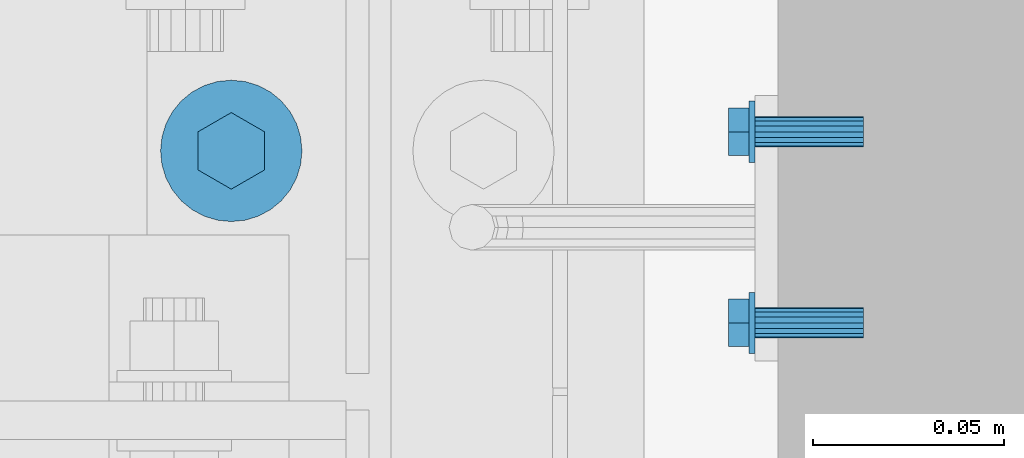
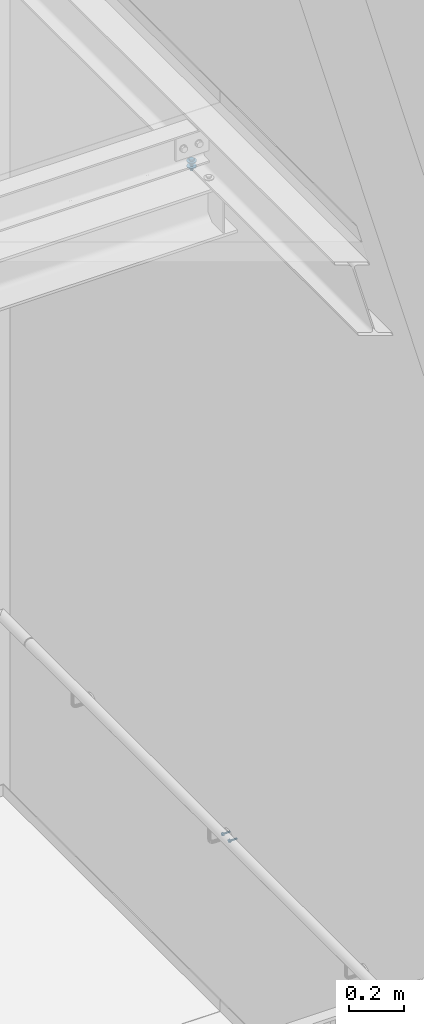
# One storey, part 318 of 410: 2 mechanical fasteners.
"""IFC2X3 building model written with IfcOpenShell, lengths in millimetres."""

import ifcopenshell
import ifcopenshell.guid

model = None  # the IFC model being written
_history = None  # IfcOwnerHistory: only IFC2X3 demands one
_inside = {}  # id of a spatial element -> (the spatial element, [elements in it])
_under = {}  # id of a project, library or spatial element -> (it, [spatial elements below it])
_declared = {}  # id of a project -> (the project, [libraries it declares])
_typed = {}  # id of a type object -> (the type object, [elements of that type])
_made_of = {}  # id of a material, layer set ... -> (it, [elements and type objects made of it])


def new_model(schema):
    """Start an empty IFC model of exactly this schema.

    Asked for "IFC4X3", IfcOpenShell would pick the latest addendum, in which some entities
    have other attributes; the version numbers below select the first issue.
    IFC2X3 requires an IfcOwnerHistory on every rooted entity: one is made here for all.
    """
    global model, _history
    if schema == "IFC4X3":
        model = ifcopenshell.file(schema_version=(4, 3, 0, 0))
    else:
        model = ifcopenshell.file(schema=schema)
    _inside.clear()
    _under.clear()
    _declared.clear()
    _typed.clear()
    _made_of.clear()
    _history = None
    if model.schema == "IFC2X3":
        org = make("IfcOrganization", Name="unknown")
        user = make(
            "IfcPersonAndOrganization",
            ThePerson=make("IfcPerson", FamilyName="unknown"),
            TheOrganization=org,
        )
        app = make(
            "IfcApplication",
            ApplicationDeveloper=org,
            Version="unknown",
            ApplicationFullName="unknown",
            ApplicationIdentifier="unknown",
        )
        _history = make(
            "IfcOwnerHistory",
            OwningUser=user,
            OwningApplication=app,
            ChangeAction="ADDED",
            CreationDate=0,
        )
    return model


def make(cls, **values):
    """One entity of the class cls with the attributes given. An attribute that is None is left unset."""
    return model.create_entity(
        cls, **{name: value for name, value in values.items() if value is not None}
    )


def entity(cls, *values):
    """Any entity or typed value of the class cls, its attributes in the order of the schema. None: left unset."""
    e = model.create_entity(cls)
    for i, value in enumerate(values):
        if value is not None:
            e[i] = value
    return e


def rooted(cls, **values):
    """An entity with a GlobalId (a new one), such as an element, a storey or a relation."""
    return make(cls, GlobalId=ifcopenshell.guid.new(), OwnerHistory=_history, **values)


def si_unit(unit_type, name, prefix=None):
    """IfcSIUnit, for example si_unit("LENGTHUNIT", "METRE", prefix="MILLI")."""
    return make("IfcSIUnit", UnitType=unit_type, Prefix=prefix, Name=name)


def converted_unit(unit_type, name, factor, base, dimensions=None, offset=None):
    """IfcConversionBasedUnit, such as the inch: factor (a typed value) times the base unit."""
    return make(
        "IfcConversionBasedUnit"
        if offset is None
        else "IfcConversionBasedUnitWithOffset",
        ConversionOffset=offset,
        Dimensions=None
        if dimensions is None
        else entity("IfcDimensionalExponents", *dimensions),
        UnitType=unit_type,
        Name=name,
        ConversionFactor=make(
            "IfcMeasureWithUnit", ValueComponent=factor, UnitComponent=base
        ),
    )


def assignment(units):
    """IfcUnitAssignment: the units of a project."""
    return None if units is None else make("IfcUnitAssignment", Units=units)


def point(xyz):
    """IfcCartesianPoint."""
    return None if xyz is None else make("IfcCartesianPoint", Coordinates=xyz)


def direction(xyz):
    """IfcDirection."""
    return None if xyz is None else make("IfcDirection", DirectionRatios=xyz)


def frame(location, z_axis=None, x_axis=None):
    """IfcAxis2Placement3D, a coordinate frame: its origin and axes. An axis left out is left unset."""
    return make(
        "IfcAxis2Placement3D",
        Location=point(location),
        Axis=direction(z_axis),
        RefDirection=direction(x_axis),
    )


def origin_with_axes():
    """The frame at (0, 0, 0) with the z axis (0, 0, 1) and the x axis (1, 0, 0) written out."""
    return frame((0.0, 0.0, 0.0), z_axis=(0.0, 0.0, 1.0), x_axis=(1.0, 0.0, 0.0))


def place(relative_to, where):
    """IfcLocalPlacement: puts the frame where relative to a parent placement (None: the world)."""
    return make(
        "IfcLocalPlacement", PlacementRelTo=relative_to, RelativePlacement=where
    )


def context(
    kind, dimensions, precision=None, world=None, true_north=None, identifier=None
):
    """IfcGeometricRepresentationContext, for example the 3D "Model" context."""
    return make(
        "IfcGeometricRepresentationContext",
        ContextIdentifier=identifier,
        ContextType=kind,
        CoordinateSpaceDimension=dimensions,
        Precision=precision,
        WorldCoordinateSystem=world,
        TrueNorth=true_north,
    )


def project(units=None, contexts=None):
    """IfcProject with its units and contexts."""
    return rooted(
        "IfcProject",
        Name="project",
        RepresentationContexts=contexts,
        UnitsInContext=assignment(units),
    )


def spatial(cls, under=None, at=None, **own):
    """A site, building, storey or space (cls), placed at a placement, below another one or the project."""
    s = rooted(cls, ObjectPlacement=at, **own)
    if under is not None:
        _under.setdefault(under.id(), (under, []))[1].append(s)
    return s


def faces_of(points, faces, orient=None, outer=None):
    """IfcFace entities. A face is a list of loops; a loop is a list of indices into points, from 0.

    orient and outer hold one flag for each loop. By default every Orientation is true, the
    first loop of a face is its IfcFaceOuterBound and the others are IfcFaceBound.
    """
    made = []
    for i, loops in enumerate(faces):
        bounds = []
        for j, loop in enumerate(loops):
            is_outer = j == 0 if outer is None else outer[i][j]
            bounds.append(
                make(
                    "IfcFaceOuterBound" if is_outer else "IfcFaceBound",
                    Bound=make("IfcPolyLoop", Polygon=[points[k] for k in loop]),
                    Orientation=True if orient is None else orient[i][j],
                )
            )
        made.append(make("IfcFace", Bounds=bounds))
    return made


def faceted_brep(points, faces, orient=None, outer=None, voids=None):
    """IfcFacetedBrep: a solid bounded by flat faces; with voids (closed shells), ...WithVoids."""
    shared = [point(p) for p in points]
    hull = make("IfcClosedShell", CfsFaces=faces_of(shared, faces, orient, outer))
    if voids is None:
        return make("IfcFacetedBrep", Outer=hull)
    return make(
        "IfcFacetedBrepWithVoids",
        Outer=hull,
        Voids=[
            make(cls, CfsFaces=faces_of(shared, fs, o, b)) for cls, fs, o, b in voids
        ],
    )


def shape(context_of_items, identifier, shape_type, items):
    """IfcShapeRepresentation: the items that make up one representation, for example the "Body"."""
    return make(
        "IfcShapeRepresentation",
        ContextOfItems=context_of_items,
        RepresentationIdentifier=identifier,
        RepresentationType=shape_type,
        Items=items,
    )


def made_of(thing, what):
    """Note that an element or type object is made of a material, layer set ...; save() writes the relation."""
    if what is not None:
        _made_of.setdefault(what.id(), (what, []))[1].append(thing)
    return thing


def element(
    cls,
    number,
    at=None,
    inside=None,
    cuts=None,
    type_object=None,
    material=None,
    context=None,
    identifier="Body",
    shape_type=None,
    held_by="IfcProductDefinitionShape",
    body=None,
    shapes=None,
    **own,
):
    """One element of the class cls, such as IfcWall. Its Tag is "e" and its number.

    at: its placement. inside: the storey or other place that contains it. cuts: it is an
    opening in that element (IfcRelVoidsElement). A single representation is given by context,
    identifier, shape_type and body (its items); several are given by shapes. held_by: the class
    of the entity that holds the representations. save() writes the other relations.
    """
    e = rooted(cls, Tag="e%d" % number, ObjectPlacement=at, **own)
    if body is not None:
        shapes = [shape(context, identifier, shape_type, body)]
    if shapes is not None:
        e.Representation = make(held_by, Representations=shapes)
    if inside is not None:
        _inside.setdefault(inside.id(), (inside, []))[1].append(e)
    if cuts is not None:
        rooted(
            "IfcRelVoidsElement", RelatingBuildingElement=cuts, RelatedOpeningElement=e
        )
    if type_object is not None:
        _typed.setdefault(type_object.id(), (type_object, []))[1].append(e)
    return made_of(e, material)


def aggregate(whole, parts):
    """IfcRelAggregates: a whole, such as a stair, and the parts it consists of."""
    return rooted("IfcRelAggregates", RelatingObject=whole, RelatedObjects=parts)


def save(model, path):
    """Write the relations noted so far, then the file.

    IfcRelAggregates (storeys below a building ...), IfcRelContainedInSpatialStructure (elements
    in a storey), IfcRelDefinesByType, IfcRelAssociatesMaterial and IfcRelDeclares: one each for
    every whole, place, type object, material and project.
    """
    for whole, parts in _under.values():
        aggregate(whole, parts)
    for where, things in _inside.values():
        rooted(
            "IfcRelContainedInSpatialStructure",
            RelatedElements=things,
            RelatingStructure=where,
        )
    for kind, things in _typed.values():
        rooted("IfcRelDefinesByType", RelatedObjects=things, RelatingType=kind)
    for what, things in _made_of.values():
        rooted("IfcRelAssociatesMaterial", RelatedObjects=things, RelatingMaterial=what)
    for by, libraries in _declared.values():
        rooted("IfcRelDeclares", RelatingContext=by, RelatedDefinitions=libraries)
    model.write(path)


model = new_model("IFC2X3")

# Units and contexts
model_context = context("Model", 3, precision=1e-09, world=origin_with_axes())
ifc_project = project(units=[si_unit("LENGTHUNIT", "METRE", prefix="MILLI"), si_unit("AREAUNIT", "SQUARE_METRE"), si_unit("VOLUMEUNIT", "CUBIC_METRE"), converted_unit("PLANEANGLEUNIT", "DEGREE", entity("IfcPlaneAngleMeasure", 0.01745329), si_unit("PLANEANGLEUNIT", "RADIAN"), dimensions=[0, 0, 0, 0, 0, 0, 0])], contexts=[model_context])

# Site, building, storey
site_placement = place(None, origin_with_axes())
site = spatial("IfcSite", under=ifc_project, at=site_placement, Name="mKR Teilneubau & Sanierung BA1 - Ostfildern", CompositionType="ELEMENT")
building_placement = place(site_placement, origin_with_axes())
building = spatial("IfcBuilding", under=site, at=building_placement, Name="Struktur 1", CompositionType="ELEMENT")
storey_placement = place(building_placement, origin_with_axes())
storey = spatial("IfcBuildingStorey", under=building, at=storey_placement, Name="Default Storey", CompositionType="ELEMENT", Elevation=0.0)

# Mechanical fasteners
mechanical_fastener_1_placement = place(None, origin_with_axes())
element("IfcMechanicalFastener", 1, at=mechanical_fastener_1_placement, inside=storey, ObjectType="Bolt", NominalDiameter=12.0, NominalLength=45.0, context=model_context, shape_type="Brep", body=[
    faceted_brep([(3165.501468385, 17043.0, 1642.2434785), (3165.501468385, 17043.0, 1645.2434785), (3165.145996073, 17039.390829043, 1645.2434785), (3165.145996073, 17039.390829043, 1642.2434785), (3164.093239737, 17035.920356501, 1645.2434785), (3164.093239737, 17035.920356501, 1642.2434785), (3162.383656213, 17032.721950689, 1645.2434785), (3162.383656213, 17032.721950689, 1642.2434785), (3160.082943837, 17029.918524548, 1645.2434785), (3160.082943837, 17029.918524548, 1642.2434785), (3157.279517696, 17027.617812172, 1645.2434785), (3157.279517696, 17027.617812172, 1642.2434785), (3154.081111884, 17025.908228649, 1645.2434785), (3154.081111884, 17025.908228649, 1642.2434785), (3150.610639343, 17024.855472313, 1645.2434785), (3150.610639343, 17024.855472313, 1642.2434785), (3147.001468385, 17024.5, 1645.2434785), (3147.001468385, 17024.5, 1642.2434785), (3143.392297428, 17024.855472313, 1645.2434785), (3143.392297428, 17024.855472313, 1642.2434785), (3139.921824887, 17025.908228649, 1645.2434785), (3139.921824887, 17025.908228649, 1642.2434785), (3136.723419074, 17027.617812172, 1645.2434785), (3136.723419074, 17027.617812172, 1642.2434785), (3133.919992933, 17029.918524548, 1645.2434785), (3133.919992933, 17029.918524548, 1642.2434785), (3131.619280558, 17032.721950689, 1645.2434785), (3131.619280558, 17032.721950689, 1642.2434785), (3129.909697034, 17035.920356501, 1645.2434785), (3129.909697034, 17035.920356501, 1642.2434785), (3128.856940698, 17039.390829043, 1645.2434785), (3128.856940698, 17039.390829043, 1642.2434785), (3128.501468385, 17043.0, 1645.2434785), (3128.501468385, 17043.0, 1642.2434785), (3128.856940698, 17046.609170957, 1645.2434785), (3128.856940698, 17046.609170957, 1642.2434785), (3129.909697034, 17050.079643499, 1645.2434785), (3129.909697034, 17050.079643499, 1642.2434785), (3131.619280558, 17053.278049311, 1645.2434785), (3131.619280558, 17053.278049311, 1642.2434785), (3133.919992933, 17056.081475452, 1645.2434785), (3133.919992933, 17056.081475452, 1642.2434785), (3136.723419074, 17058.382187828, 1645.2434785), (3136.723419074, 17058.382187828, 1642.2434785), (3139.921824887, 17060.091771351, 1645.2434785), (3139.921824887, 17060.091771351, 1642.2434785), (3143.392297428, 17061.144527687, 1645.2434785), (3143.392297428, 17061.144527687, 1642.2434785), (3147.001468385, 17061.5, 1645.2434785), (3147.001468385, 17061.5, 1642.2434785), (3150.610639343, 17061.144527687, 1645.2434785), (3150.610639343, 17061.144527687, 1642.2434785), (3154.081111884, 17060.091771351, 1645.2434785), (3154.081111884, 17060.091771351, 1642.2434785), (3157.279517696, 17058.382187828, 1645.2434785), (3157.279517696, 17058.382187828, 1642.2434785), (3160.082943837, 17056.081475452, 1645.2434785), (3160.082943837, 17056.081475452, 1642.2434785), (3162.383656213, 17053.278049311, 1645.2434785), (3162.383656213, 17053.278049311, 1642.2434785), (3164.093239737, 17050.079643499, 1645.2434785), (3164.093239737, 17050.079643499, 1642.2434785), (3165.145996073, 17046.609170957, 1645.2434785), (3165.145996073, 17046.609170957, 1642.2434785)], [[[0, 1, 2, 3]], [[3, 2, 4, 5]], [[5, 4, 6, 7]], [[7, 6, 8, 9]], [[9, 8, 10, 11]], [[11, 10, 12, 13]], [[13, 12, 14, 15]], [[15, 14, 16, 17]], [[17, 16, 18, 19]], [[19, 18, 20, 21]], [[21, 20, 22, 23]], [[23, 22, 24, 25]], [[25, 24, 26, 27]], [[27, 26, 28, 29]], [[29, 28, 30, 31]], [[31, 30, 32, 33]], [[33, 32, 34, 35]], [[35, 34, 36, 37]], [[37, 36, 38, 39]], [[39, 38, 40, 41]], [[41, 40, 42, 43]], [[43, 42, 44, 45]], [[45, 44, 46, 47]], [[47, 46, 48, 49]], [[49, 48, 50, 51]], [[51, 50, 52, 53]], [[53, 52, 54, 55]], [[55, 54, 56, 57]], [[57, 56, 58, 59]], [[59, 58, 60, 61]], [[61, 60, 62, 63]], [[63, 62, 1, 0]], [[2, 1, 62, 60, 58, 56, 54, 52, 50, 48, 46, 44, 42, 40, 38, 36, 34, 32, 30, 28, 26, 24, 22, 20, 18, 16, 14, 12, 10, 8, 6, 4]], [[63, 0, 3, 5, 7, 9, 11, 13, 15, 17, 19, 21, 23, 25, 27, 29, 31, 33, 35, 37, 39, 41, 43, 45, 47, 49, 51, 53, 55, 57, 59, 61]]]),
    faceted_brep([(3138.328223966, 17037.9925, 1652.7434785), (3138.328223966, 17037.9925, 1645.2434785), (3147.001468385, 17032.985, 1645.2434785), (3147.001468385, 17032.985, 1652.7434785), (3155.674712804, 17037.9925, 1645.2434785), (3155.674712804, 17037.9925, 1652.7434785), (3155.674712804, 17048.0075, 1645.2434785), (3155.674712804, 17048.0075, 1652.7434785), (3147.001468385, 17053.015, 1645.2434785), (3147.001468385, 17053.015, 1652.7434785), (3138.328223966, 17048.0075, 1645.2434785), (3138.328223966, 17048.0075, 1652.7434785)], [[[0, 1, 2, 3]], [[3, 2, 4, 5]], [[5, 4, 6, 7]], [[7, 6, 8, 9]], [[9, 8, 10, 11]], [[11, 10, 1, 0]], [[3, 5, 7, 9, 11, 0]], [[2, 1, 10, 8, 6, 4]]]),
    faceted_brep([(3153.001468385, 17043.0, 1621.0434785), (3153.001468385, 17043.0, 1642.2434785), (3152.54474558, 17040.703899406, 1642.2434785), (3152.54474558, 17040.703899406, 1621.0434785), (3151.244109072, 17038.757359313, 1642.2434785), (3151.244109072, 17038.757359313, 1621.0434785), (3149.29756898, 17037.456722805, 1642.2434785), (3149.29756898, 17037.456722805, 1621.0434785), (3147.001468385, 17037.0, 1642.2434785), (3147.001468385, 17037.0, 1621.0434785), (3144.705367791, 17037.456722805, 1642.2434785), (3144.705367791, 17037.456722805, 1621.0434785), (3142.758827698, 17038.757359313, 1642.2434785), (3142.758827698, 17038.757359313, 1621.0434785), (3141.45819119, 17040.703899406, 1642.2434785), (3141.45819119, 17040.703899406, 1621.0434785), (3141.001468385, 17043.0, 1642.2434785), (3141.001468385, 17043.0, 1621.0434785), (3141.45819119, 17045.296100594, 1642.2434785), (3141.45819119, 17045.296100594, 1621.0434785), (3142.758827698, 17047.242640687, 1642.2434785), (3142.758827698, 17047.242640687, 1621.0434785), (3144.705367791, 17048.543277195, 1642.2434785), (3144.705367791, 17048.543277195, 1621.0434785), (3147.001468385, 17049.0, 1642.2434785), (3147.001468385, 17049.0, 1621.0434785), (3149.29756898, 17048.543277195, 1642.2434785), (3149.29756898, 17048.543277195, 1621.0434785), (3151.244109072, 17047.242640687, 1642.2434785), (3151.244109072, 17047.242640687, 1621.0434785), (3152.54474558, 17045.296100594, 1642.2434785), (3152.54474558, 17045.296100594, 1621.0434785)], [[[0, 1, 2, 3]], [[3, 2, 4, 5]], [[5, 4, 6, 7]], [[7, 6, 8, 9]], [[9, 8, 10, 11]], [[11, 10, 12, 13]], [[13, 12, 14, 15]], [[15, 14, 16, 17]], [[17, 16, 18, 19]], [[19, 18, 20, 21]], [[21, 20, 22, 23]], [[23, 22, 24, 25]], [[25, 24, 26, 27]], [[27, 26, 28, 29]], [[29, 28, 30, 31]], [[31, 30, 1, 0]], [[2, 1, 30, 28, 26, 24, 22, 20, 18, 16, 14, 12, 10, 8, 6, 4]], [[31, 0, 3, 5, 7, 9, 11, 13, 15, 17, 19, 21, 23, 25, 27, 29]]]),
    faceted_brep([(3165.501468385, 17043.0, 1618.0434785), (3165.501468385, 17043.0, 1621.0434785), (3165.145996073, 17039.390829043, 1621.0434785), (3165.145996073, 17039.390829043, 1618.0434785), (3164.093239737, 17035.920356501, 1621.0434785), (3164.093239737, 17035.920356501, 1618.0434785), (3162.383656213, 17032.721950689, 1621.0434785), (3162.383656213, 17032.721950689, 1618.0434785), (3160.082943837, 17029.918524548, 1621.0434785), (3160.082943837, 17029.918524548, 1618.0434785), (3157.279517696, 17027.617812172, 1621.0434785), (3157.279517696, 17027.617812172, 1618.0434785), (3154.081111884, 17025.908228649, 1621.0434785), (3154.081111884, 17025.908228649, 1618.0434785), (3150.610639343, 17024.855472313, 1621.0434785), (3150.610639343, 17024.855472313, 1618.0434785), (3147.001468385, 17024.5, 1621.0434785), (3147.001468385, 17024.5, 1618.0434785), (3143.392297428, 17024.855472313, 1621.0434785), (3143.392297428, 17024.855472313, 1618.0434785), (3139.921824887, 17025.908228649, 1621.0434785), (3139.921824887, 17025.908228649, 1618.0434785), (3136.723419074, 17027.617812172, 1621.0434785), (3136.723419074, 17027.617812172, 1618.0434785), (3133.919992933, 17029.918524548, 1621.0434785), (3133.919992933, 17029.918524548, 1618.0434785), (3131.619280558, 17032.721950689, 1621.0434785), (3131.619280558, 17032.721950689, 1618.0434785), (3129.909697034, 17035.920356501, 1621.0434785), (3129.909697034, 17035.920356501, 1618.0434785), (3128.856940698, 17039.390829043, 1621.0434785), (3128.856940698, 17039.390829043, 1618.0434785), (3128.501468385, 17043.0, 1621.0434785), (3128.501468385, 17043.0, 1618.0434785), (3128.856940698, 17046.609170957, 1621.0434785), (3128.856940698, 17046.609170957, 1618.0434785), (3129.909697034, 17050.079643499, 1621.0434785), (3129.909697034, 17050.079643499, 1618.0434785), (3131.619280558, 17053.278049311, 1621.0434785), (3131.619280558, 17053.278049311, 1618.0434785), (3133.919992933, 17056.081475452, 1621.0434785), (3133.919992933, 17056.081475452, 1618.0434785), (3136.723419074, 17058.382187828, 1621.0434785), (3136.723419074, 17058.382187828, 1618.0434785), (3139.921824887, 17060.091771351, 1621.0434785), (3139.921824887, 17060.091771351, 1618.0434785), (3143.392297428, 17061.144527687, 1621.0434785), (3143.392297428, 17061.144527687, 1618.0434785), (3147.001468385, 17061.5, 1621.0434785), (3147.001468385, 17061.5, 1618.0434785), (3150.610639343, 17061.144527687, 1621.0434785), (3150.610639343, 17061.144527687, 1618.0434785), (3154.081111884, 17060.091771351, 1621.0434785), (3154.081111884, 17060.091771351, 1618.0434785), (3157.279517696, 17058.382187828, 1621.0434785), (3157.279517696, 17058.382187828, 1618.0434785), (3160.082943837, 17056.081475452, 1621.0434785), (3160.082943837, 17056.081475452, 1618.0434785), (3162.383656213, 17053.278049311, 1621.0434785), (3162.383656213, 17053.278049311, 1618.0434785), (3164.093239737, 17050.079643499, 1621.0434785), (3164.093239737, 17050.079643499, 1618.0434785), (3165.145996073, 17046.609170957, 1621.0434785), (3165.145996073, 17046.609170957, 1618.0434785)], [[[0, 1, 2, 3]], [[3, 2, 4, 5]], [[5, 4, 6, 7]], [[7, 6, 8, 9]], [[9, 8, 10, 11]], [[11, 10, 12, 13]], [[13, 12, 14, 15]], [[15, 14, 16, 17]], [[17, 16, 18, 19]], [[19, 18, 20, 21]], [[21, 20, 22, 23]], [[23, 22, 24, 25]], [[25, 24, 26, 27]], [[27, 26, 28, 29]], [[29, 28, 30, 31]], [[31, 30, 32, 33]], [[33, 32, 34, 35]], [[35, 34, 36, 37]], [[37, 36, 38, 39]], [[39, 38, 40, 41]], [[41, 40, 42, 43]], [[43, 42, 44, 45]], [[45, 44, 46, 47]], [[47, 46, 48, 49]], [[49, 48, 50, 51]], [[51, 50, 52, 53]], [[53, 52, 54, 55]], [[55, 54, 56, 57]], [[57, 56, 58, 59]], [[59, 58, 60, 61]], [[61, 60, 62, 63]], [[63, 62, 1, 0]], [[2, 1, 62, 60, 58, 56, 54, 52, 50, 48, 46, 44, 42, 40, 38, 36, 34, 32, 30, 28, 26, 24, 22, 20, 18, 16, 14, 12, 10, 8, 6, 4]], [[63, 0, 3, 5, 7, 9, 11, 13, 15, 17, 19, 21, 23, 25, 27, 29, 31, 33, 35, 37, 39, 41, 43, 45, 47, 49, 51, 53, 55, 57, 59, 61]]]),
    faceted_brep([(3137.864900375, 17037.725, 1618.0434785), (3137.864900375, 17037.725, 1608.0434785), (3147.001468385, 17032.45, 1608.0434785), (3147.001468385, 17032.45, 1618.0434785), (3156.138036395, 17037.725, 1608.0434785), (3156.138036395, 17037.725, 1618.0434785), (3156.138036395, 17048.275, 1608.0434785), (3156.138036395, 17048.275, 1618.0434785), (3147.001468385, 17053.55, 1608.0434785), (3147.001468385, 17053.55, 1618.0434785), (3137.864900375, 17048.275, 1608.0434785), (3137.864900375, 17048.275, 1618.0434785)], [[[0, 1, 2, 3]], [[3, 2, 4, 5]], [[5, 4, 6, 7]], [[7, 6, 8, 9]], [[9, 8, 10, 11]], [[11, 10, 1, 0]], [[3, 5, 7, 9, 11, 0]], [[2, 1, 10, 8, 6, 4]]]),
    faceted_brep([(3153.001468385, 17043.0, 1600.2434785), (3153.001468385, 17043.0, 1608.0434785), (3152.54474558, 17040.703899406, 1608.0434785), (3152.54474558, 17040.703899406, 1600.2434785), (3151.244109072, 17038.757359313, 1608.0434785), (3151.244109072, 17038.757359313, 1600.2434785), (3149.29756898, 17037.456722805, 1608.0434785), (3149.29756898, 17037.456722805, 1600.2434785), (3147.001468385, 17037.0, 1608.0434785), (3147.001468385, 17037.0, 1600.2434785), (3144.705367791, 17037.456722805, 1608.0434785), (3144.705367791, 17037.456722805, 1600.2434785), (3142.758827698, 17038.757359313, 1608.0434785), (3142.758827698, 17038.757359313, 1600.2434785), (3141.45819119, 17040.703899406, 1608.0434785), (3141.45819119, 17040.703899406, 1600.2434785), (3141.001468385, 17043.0, 1608.0434785), (3141.001468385, 17043.0, 1600.2434785), (3141.45819119, 17045.296100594, 1608.0434785), (3141.45819119, 17045.296100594, 1600.2434785), (3142.758827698, 17047.242640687, 1608.0434785), (3142.758827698, 17047.242640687, 1600.2434785), (3144.705367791, 17048.543277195, 1608.0434785), (3144.705367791, 17048.543277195, 1600.2434785), (3147.001468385, 17049.0, 1608.0434785), (3147.001468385, 17049.0, 1600.2434785), (3149.29756898, 17048.543277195, 1608.0434785), (3149.29756898, 17048.543277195, 1600.2434785), (3151.244109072, 17047.242640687, 1608.0434785), (3151.244109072, 17047.242640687, 1600.2434785), (3152.54474558, 17045.296100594, 1608.0434785), (3152.54474558, 17045.296100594, 1600.2434785)], [[[0, 1, 2, 3]], [[3, 2, 4, 5]], [[5, 4, 6, 7]], [[7, 6, 8, 9]], [[9, 8, 10, 11]], [[11, 10, 12, 13]], [[13, 12, 14, 15]], [[15, 14, 16, 17]], [[17, 16, 18, 19]], [[19, 18, 20, 21]], [[21, 20, 22, 23]], [[23, 22, 24, 25]], [[25, 24, 26, 27]], [[27, 26, 28, 29]], [[29, 28, 30, 31]], [[31, 30, 1, 0]], [[2, 1, 30, 28, 26, 24, 22, 20, 18, 16, 14, 12, 10, 8, 6, 4]], [[31, 0, 3, 5, 7, 9, 11, 13, 15, 17, 19, 21, 23, 25, 27, 29]]]),
])
mechanical_fastener_2_placement = place(None, origin_with_axes())
element("IfcMechanicalFastener", 2, at=mechanical_fastener_2_placement, inside=storey, ObjectType="-", NominalDiameter=8.0, NominalLength=30.0, context=model_context, shape_type="Brep", body=[
    faceted_brep([(3282.399216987, 17006.000030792, -1413.0), (3283.999216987, 17006.000030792, -1413.0), (3283.999216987, 17005.846313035, -1414.560722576), (3282.399216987, 17005.846313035, -1414.560722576), (3283.999216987, 17005.391067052, -1416.061467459), (3282.399216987, 17005.391067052, -1416.061467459), (3283.999216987, 17004.65178769, -1417.444561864), (3282.399216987, 17004.65178769, -1417.444561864), (3283.999216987, 17003.656885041, -1418.65685425), (3282.399216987, 17003.656885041, -1418.65685425), (3283.999216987, 17002.444592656, -1419.651756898), (3282.399216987, 17002.444592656, -1419.651756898), (3283.999216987, 17001.061498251, -1420.39103626), (3282.399216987, 17001.061498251, -1420.39103626), (3283.999216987, 16999.560753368, -1420.846282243), (3282.399216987, 16999.560753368, -1420.846282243), (3283.999216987, 16998.000030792, -1421.0), (3282.399216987, 16998.000030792, -1421.0), (3283.999216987, 16996.439308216, -1420.846282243), (3282.399216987, 16996.439308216, -1420.846282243), (3283.999216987, 16994.938563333, -1420.39103626), (3282.399216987, 16994.938563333, -1420.39103626), (3283.999216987, 16993.555468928, -1419.651756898), (3282.399216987, 16993.555468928, -1419.651756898), (3283.999216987, 16992.343176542, -1418.65685425), (3282.399216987, 16992.343176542, -1418.65685425), (3283.999216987, 16991.348273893, -1417.444561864), (3282.399216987, 16991.348273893, -1417.444561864), (3283.999216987, 16990.608994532, -1416.061467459), (3282.399216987, 16990.608994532, -1416.061467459), (3283.999216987, 16990.153748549, -1414.560722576), (3282.399216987, 16990.153748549, -1414.560722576), (3283.999216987, 16990.000030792, -1413.0), (3282.399216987, 16990.000030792, -1413.0), (3283.999216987, 16990.153748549, -1411.439277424), (3282.399216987, 16990.153748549, -1411.439277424), (3283.999216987, 16990.608994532, -1409.938532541), (3282.399216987, 16990.608994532, -1409.938532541), (3283.999216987, 16991.348273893, -1408.555438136), (3282.399216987, 16991.348273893, -1408.555438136), (3283.999216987, 16992.343176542, -1407.343145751), (3282.399216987, 16992.343176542, -1407.343145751), (3283.999216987, 16993.555468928, -1406.348243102), (3282.399216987, 16993.555468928, -1406.348243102), (3283.999216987, 16994.938563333, -1405.60896374), (3282.399216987, 16994.938563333, -1405.60896374), (3283.999216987, 16996.439308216, -1405.153717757), (3282.399216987, 16996.439308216, -1405.153717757), (3283.999216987, 16998.000030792, -1405.0), (3282.399216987, 16998.000030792, -1405.0), (3283.999216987, 16999.560753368, -1405.153717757), (3282.399216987, 16999.560753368, -1405.153717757), (3283.999216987, 17001.061498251, -1405.60896374), (3282.399216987, 17001.061498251, -1405.60896374), (3283.999216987, 17002.444592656, -1406.348243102), (3282.399216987, 17002.444592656, -1406.348243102), (3283.999216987, 17003.656885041, -1407.343145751), (3282.399216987, 17003.656885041, -1407.343145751), (3283.999216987, 17004.65178769, -1408.555438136), (3282.399216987, 17004.65178769, -1408.555438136), (3283.999216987, 17005.391067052, -1409.938532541), (3282.399216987, 17005.391067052, -1409.938532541), (3283.999216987, 17005.846313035, -1411.439277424), (3282.399216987, 17005.846313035, -1411.439277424)], [[[0, 1, 2, 3]], [[3, 2, 4, 5]], [[5, 4, 6, 7]], [[7, 6, 8, 9]], [[9, 8, 10, 11]], [[11, 10, 12, 13]], [[13, 12, 14, 15]], [[15, 14, 16, 17]], [[17, 16, 18, 19]], [[19, 18, 20, 21]], [[21, 20, 22, 23]], [[23, 22, 24, 25]], [[25, 24, 26, 27]], [[27, 26, 28, 29]], [[29, 28, 30, 31]], [[31, 30, 32, 33]], [[33, 32, 34, 35]], [[35, 34, 36, 37]], [[37, 36, 38, 39]], [[39, 38, 40, 41]], [[41, 40, 42, 43]], [[43, 42, 44, 45]], [[45, 44, 46, 47]], [[47, 46, 48, 49]], [[49, 48, 50, 51]], [[51, 50, 52, 53]], [[53, 52, 54, 55]], [[55, 54, 56, 57]], [[57, 56, 58, 59]], [[59, 58, 60, 61]], [[61, 60, 62, 63]], [[63, 62, 1, 0]], [[0, 3, 5, 7, 9, 11, 13, 15, 17, 19, 21, 23, 25, 27, 29, 31, 33, 35, 37, 39, 41, 43, 45, 47, 49, 51, 53, 55, 57, 59, 61, 63]], [[1, 62, 60, 58, 56, 54, 52, 50, 48, 46, 44, 42, 40, 38, 36, 34, 32, 30, 28, 26, 24, 22, 20, 18, 16, 14, 12, 10, 8, 6, 4, 2]]]),
    faceted_brep([(3282.399216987, 17056.000030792, -1413.0), (3283.999216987, 17056.000030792, -1413.0), (3283.999216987, 17055.846313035, -1414.560722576), (3282.399216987, 17055.846313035, -1414.560722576), (3283.999216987, 17055.391067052, -1416.061467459), (3282.399216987, 17055.391067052, -1416.061467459), (3283.999216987, 17054.65178769, -1417.444561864), (3282.399216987, 17054.65178769, -1417.444561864), (3283.999216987, 17053.656885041, -1418.65685425), (3282.399216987, 17053.656885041, -1418.65685425), (3283.999216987, 17052.444592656, -1419.651756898), (3282.399216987, 17052.444592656, -1419.651756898), (3283.999216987, 17051.061498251, -1420.39103626), (3282.399216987, 17051.061498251, -1420.39103626), (3283.999216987, 17049.560753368, -1420.846282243), (3282.399216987, 17049.560753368, -1420.846282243), (3283.999216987, 17048.000030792, -1421.0), (3282.399216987, 17048.000030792, -1421.0), (3283.999216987, 17046.439308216, -1420.846282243), (3282.399216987, 17046.439308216, -1420.846282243), (3283.999216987, 17044.938563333, -1420.39103626), (3282.399216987, 17044.938563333, -1420.39103626), (3283.999216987, 17043.555468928, -1419.651756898), (3282.399216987, 17043.555468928, -1419.651756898), (3283.999216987, 17042.343176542, -1418.65685425), (3282.399216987, 17042.343176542, -1418.65685425), (3283.999216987, 17041.348273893, -1417.444561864), (3282.399216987, 17041.348273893, -1417.444561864), (3283.999216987, 17040.608994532, -1416.061467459), (3282.399216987, 17040.608994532, -1416.061467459), (3283.999216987, 17040.153748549, -1414.560722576), (3282.399216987, 17040.153748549, -1414.560722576), (3283.999216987, 17040.000030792, -1413.0), (3282.399216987, 17040.000030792, -1413.0), (3283.999216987, 17040.153748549, -1411.439277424), (3282.399216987, 17040.153748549, -1411.439277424), (3283.999216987, 17040.608994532, -1409.938532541), (3282.399216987, 17040.608994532, -1409.938532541), (3283.999216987, 17041.348273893, -1408.555438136), (3282.399216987, 17041.348273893, -1408.555438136), (3283.999216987, 17042.343176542, -1407.343145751), (3282.399216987, 17042.343176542, -1407.343145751), (3283.999216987, 17043.555468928, -1406.348243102), (3282.399216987, 17043.555468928, -1406.348243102), (3283.999216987, 17044.938563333, -1405.60896374), (3282.399216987, 17044.938563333, -1405.60896374), (3283.999216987, 17046.439308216, -1405.153717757), (3282.399216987, 17046.439308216, -1405.153717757), (3283.999216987, 17048.000030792, -1405.0), (3282.399216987, 17048.000030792, -1405.0), (3283.999216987, 17049.560753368, -1405.153717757), (3282.399216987, 17049.560753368, -1405.153717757), (3283.999216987, 17051.061498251, -1405.60896374), (3282.399216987, 17051.061498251, -1405.60896374), (3283.999216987, 17052.444592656, -1406.348243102), (3282.399216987, 17052.444592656, -1406.348243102), (3283.999216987, 17053.656885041, -1407.343145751), (3282.399216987, 17053.656885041, -1407.343145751), (3283.999216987, 17054.65178769, -1408.555438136), (3282.399216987, 17054.65178769, -1408.555438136), (3283.999216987, 17055.391067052, -1409.938532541), (3282.399216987, 17055.391067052, -1409.938532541), (3283.999216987, 17055.846313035, -1411.439277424), (3282.399216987, 17055.846313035, -1411.439277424)], [[[0, 1, 2, 3]], [[3, 2, 4, 5]], [[5, 4, 6, 7]], [[7, 6, 8, 9]], [[9, 8, 10, 11]], [[11, 10, 12, 13]], [[13, 12, 14, 15]], [[15, 14, 16, 17]], [[17, 16, 18, 19]], [[19, 18, 20, 21]], [[21, 20, 22, 23]], [[23, 22, 24, 25]], [[25, 24, 26, 27]], [[27, 26, 28, 29]], [[29, 28, 30, 31]], [[31, 30, 32, 33]], [[33, 32, 34, 35]], [[35, 34, 36, 37]], [[37, 36, 38, 39]], [[39, 38, 40, 41]], [[41, 40, 42, 43]], [[43, 42, 44, 45]], [[45, 44, 46, 47]], [[47, 46, 48, 49]], [[49, 48, 50, 51]], [[51, 50, 52, 53]], [[53, 52, 54, 55]], [[55, 54, 56, 57]], [[57, 56, 58, 59]], [[59, 58, 60, 61]], [[61, 60, 62, 63]], [[63, 62, 1, 0]], [[0, 3, 5, 7, 9, 11, 13, 15, 17, 19, 21, 23, 25, 27, 29, 31, 33, 35, 37, 39, 41, 43, 45, 47, 49, 51, 53, 55, 57, 59, 61, 63]], [[1, 62, 60, 58, 56, 54, 52, 50, 48, 46, 44, 42, 40, 38, 36, 34, 32, 30, 28, 26, 24, 22, 20, 18, 16, 14, 12, 10, 8, 6, 4, 2]]]),
    faceted_brep([(3282.399216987, 16991.773308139, -1416.595), (3277.099216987, 16991.773308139, -1416.595), (3277.099216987, 16998.000030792, -1420.19), (3282.399216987, 16998.000030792, -1420.19), (3277.099216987, 17004.226753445, -1416.595), (3282.399216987, 17004.226753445, -1416.595), (3277.099216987, 17004.226753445, -1409.405), (3282.399216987, 17004.226753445, -1409.405), (3277.099216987, 16998.000030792, -1405.81), (3282.399216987, 16998.000030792, -1405.81), (3277.099216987, 16991.773308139, -1409.405), (3282.399216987, 16991.773308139, -1409.405)], [[[0, 1, 2, 3]], [[3, 2, 4, 5]], [[5, 4, 6, 7]], [[7, 6, 8, 9]], [[9, 8, 10, 11]], [[11, 10, 1, 0]], [[4, 2, 1, 10, 8, 6]], [[0, 3, 5, 7, 9, 11]]]),
    faceted_brep([(3282.399216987, 17041.773308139, -1416.595), (3277.099216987, 17041.773308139, -1416.595), (3277.099216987, 17048.000030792, -1420.19), (3282.399216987, 17048.000030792, -1420.19), (3277.099216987, 17054.226753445, -1416.595), (3282.399216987, 17054.226753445, -1416.595), (3277.099216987, 17054.226753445, -1409.405), (3282.399216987, 17054.226753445, -1409.405), (3277.099216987, 17048.000030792, -1405.81), (3282.399216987, 17048.000030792, -1405.81), (3277.099216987, 17041.773308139, -1409.405), (3282.399216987, 17041.773308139, -1409.405)], [[[0, 1, 2, 3]], [[3, 2, 4, 5]], [[5, 4, 6, 7]], [[7, 6, 8, 9]], [[9, 8, 10, 11]], [[11, 10, 1, 0]], [[4, 2, 1, 10, 8, 6]], [[0, 3, 5, 7, 9, 11]]]),
    faceted_brep([(3283.999216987, 17002.000030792, -1413.0), (3293.999216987, 17002.000030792, -1413.0), (3293.999216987, 17001.695548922, -1414.530733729), (3283.999216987, 17001.695548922, -1414.530733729), (3293.999216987, 17000.828457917, -1415.828427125), (3283.999216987, 17000.828457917, -1415.828427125), (3293.999216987, 16999.530764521, -1416.69551813), (3283.999216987, 16999.530764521, -1416.69551813), (3293.999216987, 16998.000030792, -1417.0), (3283.999216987, 16998.000030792, -1417.0), (3293.999216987, 16996.469297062, -1416.69551813), (3283.999216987, 16996.469297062, -1416.69551813), (3293.999216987, 16995.171603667, -1415.828427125), (3283.999216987, 16995.171603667, -1415.828427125), (3293.999216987, 16994.304512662, -1414.530733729), (3283.999216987, 16994.304512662, -1414.530733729), (3293.999216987, 16994.000030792, -1413.0), (3283.999216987, 16994.000030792, -1413.0), (3293.999216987, 16994.304512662, -1411.469266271), (3283.999216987, 16994.304512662, -1411.469266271), (3293.999216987, 16995.171603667, -1410.171572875), (3283.999216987, 16995.171603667, -1410.171572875), (3293.999216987, 16996.469297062, -1409.30448187), (3283.999216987, 16996.469297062, -1409.30448187), (3293.999216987, 16998.000030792, -1409.0), (3283.999216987, 16998.000030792, -1409.0), (3293.999216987, 16999.530764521, -1409.30448187), (3283.999216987, 16999.530764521, -1409.30448187), (3293.999216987, 17000.828457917, -1410.171572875), (3283.999216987, 17000.828457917, -1410.171572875), (3293.999216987, 17001.695548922, -1411.469266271), (3283.999216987, 17001.695548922, -1411.469266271)], [[[0, 1, 2, 3]], [[3, 2, 4, 5]], [[5, 4, 6, 7]], [[7, 6, 8, 9]], [[9, 8, 10, 11]], [[11, 10, 12, 13]], [[13, 12, 14, 15]], [[15, 14, 16, 17]], [[17, 16, 18, 19]], [[19, 18, 20, 21]], [[21, 20, 22, 23]], [[23, 22, 24, 25]], [[25, 24, 26, 27]], [[27, 26, 28, 29]], [[29, 28, 30, 31]], [[31, 30, 1, 0]], [[0, 3, 5, 7, 9, 11, 13, 15, 17, 19, 21, 23, 25, 27, 29, 31]], [[1, 30, 28, 26, 24, 22, 20, 18, 16, 14, 12, 10, 8, 6, 4, 2]]]),
    faceted_brep([(3283.999216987, 17052.000030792, -1413.0), (3293.999216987, 17052.000030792, -1413.0), (3293.999216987, 17051.695548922, -1414.530733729), (3283.999216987, 17051.695548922, -1414.530733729), (3293.999216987, 17050.828457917, -1415.828427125), (3283.999216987, 17050.828457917, -1415.828427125), (3293.999216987, 17049.530764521, -1416.69551813), (3283.999216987, 17049.530764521, -1416.69551813), (3293.999216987, 17048.000030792, -1417.0), (3283.999216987, 17048.000030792, -1417.0), (3293.999216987, 17046.469297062, -1416.69551813), (3283.999216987, 17046.469297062, -1416.69551813), (3293.999216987, 17045.171603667, -1415.828427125), (3283.999216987, 17045.171603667, -1415.828427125), (3293.999216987, 17044.304512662, -1414.530733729), (3283.999216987, 17044.304512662, -1414.530733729), (3293.999216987, 17044.000030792, -1413.0), (3283.999216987, 17044.000030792, -1413.0), (3293.999216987, 17044.304512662, -1411.469266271), (3283.999216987, 17044.304512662, -1411.469266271), (3293.999216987, 17045.171603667, -1410.171572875), (3283.999216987, 17045.171603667, -1410.171572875), (3293.999216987, 17046.469297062, -1409.30448187), (3283.999216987, 17046.469297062, -1409.30448187), (3293.999216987, 17048.000030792, -1409.0), (3283.999216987, 17048.000030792, -1409.0), (3293.999216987, 17049.530764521, -1409.30448187), (3283.999216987, 17049.530764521, -1409.30448187), (3293.999216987, 17050.828457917, -1410.171572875), (3283.999216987, 17050.828457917, -1410.171572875), (3293.999216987, 17051.695548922, -1411.469266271), (3283.999216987, 17051.695548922, -1411.469266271)], [[[0, 1, 2, 3]], [[3, 2, 4, 5]], [[5, 4, 6, 7]], [[7, 6, 8, 9]], [[9, 8, 10, 11]], [[11, 10, 12, 13]], [[13, 12, 14, 15]], [[15, 14, 16, 17]], [[17, 16, 18, 19]], [[19, 18, 20, 21]], [[21, 20, 22, 23]], [[23, 22, 24, 25]], [[25, 24, 26, 27]], [[27, 26, 28, 29]], [[29, 28, 30, 31]], [[31, 30, 1, 0]], [[0, 3, 5, 7, 9, 11, 13, 15, 17, 19, 21, 23, 25, 27, 29, 31]], [[1, 30, 28, 26, 24, 22, 20, 18, 16, 14, 12, 10, 8, 6, 4, 2]]]),
    faceted_brep([(3293.999216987, 17002.000030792, -1413.0), (3312.399216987, 17002.000030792, -1413.0), (3312.399216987, 17001.695548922, -1414.530733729), (3293.999216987, 17001.695548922, -1414.530733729), (3312.399216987, 17000.828457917, -1415.828427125), (3293.999216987, 17000.828457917, -1415.828427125), (3312.399216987, 16999.530764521, -1416.69551813), (3293.999216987, 16999.530764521, -1416.69551813), (3312.399216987, 16998.000030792, -1417.0), (3293.999216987, 16998.000030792, -1417.0), (3312.399216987, 16996.469297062, -1416.69551813), (3293.999216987, 16996.469297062, -1416.69551813), (3312.399216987, 16995.171603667, -1415.828427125), (3293.999216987, 16995.171603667, -1415.828427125), (3312.399216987, 16994.304512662, -1414.530733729), (3293.999216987, 16994.304512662, -1414.530733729), (3312.399216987, 16994.000030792, -1413.0), (3293.999216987, 16994.000030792, -1413.0), (3312.399216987, 16994.304512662, -1411.469266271), (3293.999216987, 16994.304512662, -1411.469266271), (3312.399216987, 16995.171603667, -1410.171572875), (3293.999216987, 16995.171603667, -1410.171572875), (3312.399216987, 16996.469297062, -1409.30448187), (3293.999216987, 16996.469297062, -1409.30448187), (3312.399216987, 16998.000030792, -1409.0), (3293.999216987, 16998.000030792, -1409.0), (3312.399216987, 16999.530764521, -1409.30448187), (3293.999216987, 16999.530764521, -1409.30448187), (3312.399216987, 17000.828457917, -1410.171572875), (3293.999216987, 17000.828457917, -1410.171572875), (3312.399216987, 17001.695548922, -1411.469266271), (3293.999216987, 17001.695548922, -1411.469266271)], [[[0, 1, 2, 3]], [[3, 2, 4, 5]], [[5, 4, 6, 7]], [[7, 6, 8, 9]], [[9, 8, 10, 11]], [[11, 10, 12, 13]], [[13, 12, 14, 15]], [[15, 14, 16, 17]], [[17, 16, 18, 19]], [[19, 18, 20, 21]], [[21, 20, 22, 23]], [[23, 22, 24, 25]], [[25, 24, 26, 27]], [[27, 26, 28, 29]], [[29, 28, 30, 31]], [[31, 30, 1, 0]], [[0, 3, 5, 7, 9, 11, 13, 15, 17, 19, 21, 23, 25, 27, 29, 31]], [[1, 30, 28, 26, 24, 22, 20, 18, 16, 14, 12, 10, 8, 6, 4, 2]]]),
    faceted_brep([(3293.999216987, 17052.000030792, -1413.0), (3312.399216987, 17052.000030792, -1413.0), (3312.399216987, 17051.695548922, -1414.530733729), (3293.999216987, 17051.695548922, -1414.530733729), (3312.399216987, 17050.828457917, -1415.828427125), (3293.999216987, 17050.828457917, -1415.828427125), (3312.399216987, 17049.530764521, -1416.69551813), (3293.999216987, 17049.530764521, -1416.69551813), (3312.399216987, 17048.000030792, -1417.0), (3293.999216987, 17048.000030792, -1417.0), (3312.399216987, 17046.469297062, -1416.69551813), (3293.999216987, 17046.469297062, -1416.69551813), (3312.399216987, 17045.171603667, -1415.828427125), (3293.999216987, 17045.171603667, -1415.828427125), (3312.399216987, 17044.304512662, -1414.530733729), (3293.999216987, 17044.304512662, -1414.530733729), (3312.399216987, 17044.000030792, -1413.0), (3293.999216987, 17044.000030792, -1413.0), (3312.399216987, 17044.304512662, -1411.469266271), (3293.999216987, 17044.304512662, -1411.469266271), (3312.399216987, 17045.171603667, -1410.171572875), (3293.999216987, 17045.171603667, -1410.171572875), (3312.399216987, 17046.469297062, -1409.30448187), (3293.999216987, 17046.469297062, -1409.30448187), (3312.399216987, 17048.000030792, -1409.0), (3293.999216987, 17048.000030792, -1409.0), (3312.399216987, 17049.530764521, -1409.30448187), (3293.999216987, 17049.530764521, -1409.30448187), (3312.399216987, 17050.828457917, -1410.171572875), (3293.999216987, 17050.828457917, -1410.171572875), (3312.399216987, 17051.695548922, -1411.469266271), (3293.999216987, 17051.695548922, -1411.469266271)], [[[0, 1, 2, 3]], [[3, 2, 4, 5]], [[5, 4, 6, 7]], [[7, 6, 8, 9]], [[9, 8, 10, 11]], [[11, 10, 12, 13]], [[13, 12, 14, 15]], [[15, 14, 16, 17]], [[17, 16, 18, 19]], [[19, 18, 20, 21]], [[21, 20, 22, 23]], [[23, 22, 24, 25]], [[25, 24, 26, 27]], [[27, 26, 28, 29]], [[29, 28, 30, 31]], [[31, 30, 1, 0]], [[0, 3, 5, 7, 9, 11, 13, 15, 17, 19, 21, 23, 25, 27, 29, 31]], [[1, 30, 28, 26, 24, 22, 20, 18, 16, 14, 12, 10, 8, 6, 4, 2]]]),
])

save(model, "model.ifc")
